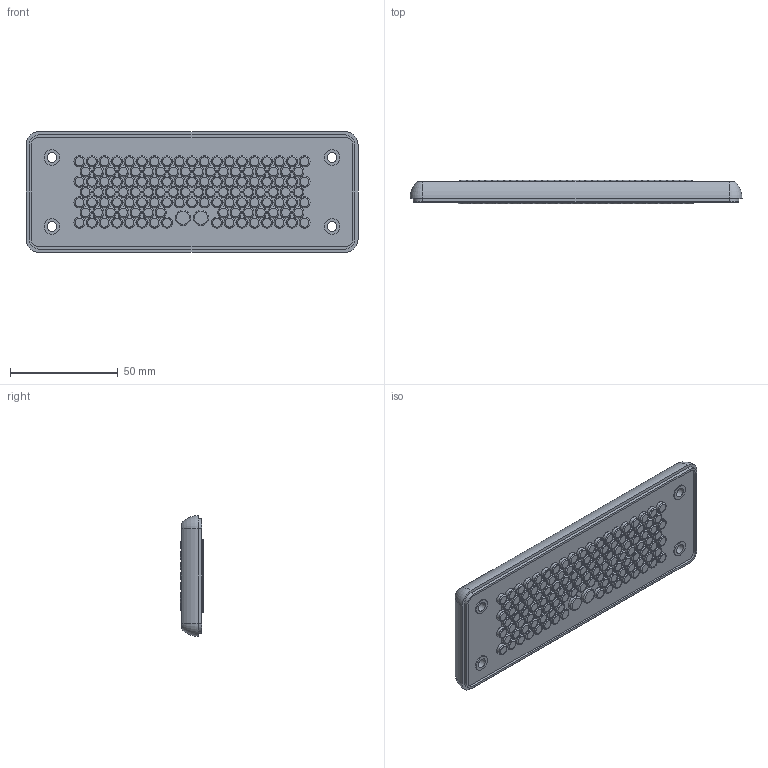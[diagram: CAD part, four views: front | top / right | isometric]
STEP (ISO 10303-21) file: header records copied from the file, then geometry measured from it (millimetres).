
FILE_DESCRIPTION(/* description */ ('STEP AP203'),/* implementation_level */ '2;1');
FILE_NAME(/* name */ '107562 MH-24 F 125-1',/* time_stamp */ '2024-10-07T14:04:01+02:00',/* author */ ('License CC BY-ND 4.0'),/* organization */ ('CADENAS'),/* preprocessor_version */ 'ST-DEVELOPER v19.3',/* originating_system */ 'PARTsolutions',/* authorisation */ ' ');
FILE_SCHEMA (('CONFIG_CONTROL_DESIGN'));
Length unit declared in the file: millimetre
Products named in the file (1): 107562 MH-24 F 125-1
Bounding box: 154 x 11 x 56 mm (x, y, z)
Volume: 74319.3 mm3; surface area: 24586.4 mm2
Topology: 1 solids, 1 shells, 685 faces, 1261 edges, 838 vertices
Faces by surface type: plane 274, cone 254, torus 133, cylinder 24
Full cylindrical faces by diameter (mm): 4.5 x4, 7.2 x4
Entity records: 14130 total; most frequent: DIRECTION 2802, CARTESIAN_POINT 2136, ORIENTED_EDGE 1482, AXIS2_PLACEMENT_3D 1375, EDGE_LOOP 1344, FACE_BOUND 1344, EDGE_CURVE 741, VERTEX_POINT 709
